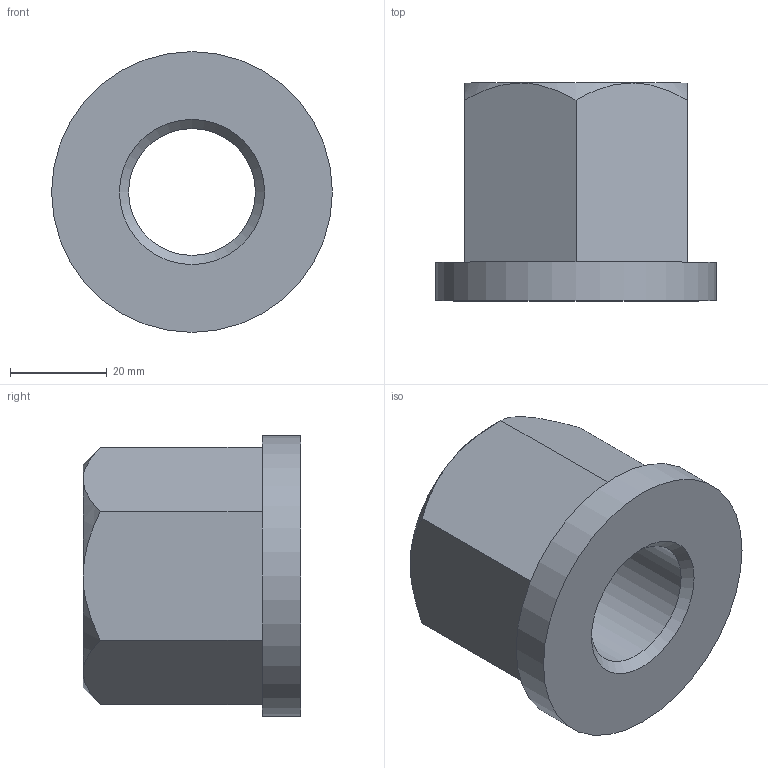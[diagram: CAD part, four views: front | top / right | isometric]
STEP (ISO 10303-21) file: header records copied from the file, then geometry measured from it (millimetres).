
FILE_DESCRIPTION( ( 'STEP AP203' ), '1' );
FILE_NAME( 'C:/Temp/Ganter_Step_05_03_2020/data/3_2/din6331/Hexagon nut DIN 6331-M30.stp', '2020-03-13T05:16:17', ( 'License CC BY-ND 4.0' ), ( 'CADENAS' ), ' ', 'PARTsolutions', ' ' );
FILE_SCHEMA( ( 'CONFIG_CONTROL_DESIGN' ) );
Length unit declared in the file: millimetre
Products named in the file (1): _Hexagon nut DIN 6331-M30
Bounding box: 58 x 45 x 58 mm (x, y, z)
Volume: 64165.5 mm3; surface area: 14966.9 mm2
Topology: 1 solids, 1 shells, 19 faces, 41 edges, 25 vertices
Faces by surface type: plane 9, cone 8, cylinder 2
Full cylindrical faces by diameter (mm): 26.211 x1, 58 x1
Entity records: 606 total; most frequent: CARTESIAN_POINT 180, DIRECTION 76, ORIENTED_EDGE 72, EDGE_CURVE 36, AXIS2_PLACEMENT_3D 32, EDGE_LOOP 26, VERTEX_POINT 24, FACE_OUTER_BOUND 21
